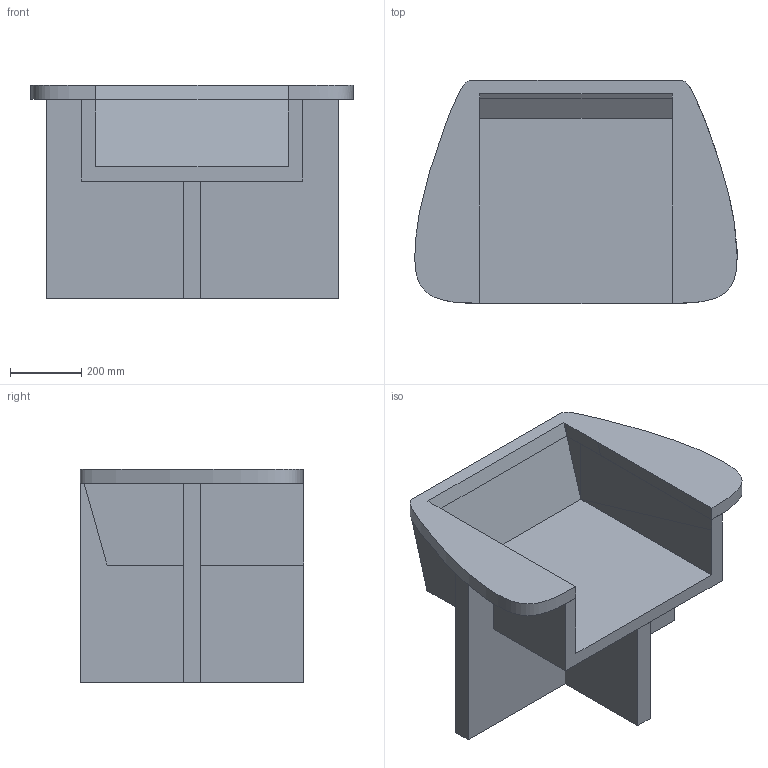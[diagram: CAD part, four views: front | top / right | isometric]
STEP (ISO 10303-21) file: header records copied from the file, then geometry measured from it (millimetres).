
FILE_DESCRIPTION(/* description */ (''),/* implementation_level */ '2;1');
FILE_NAME(/* name */ 'Brutus Lounge',/* time_stamp */ '2021-11-01T10:22:42+01:00',/* author */ (''),/* organization */ (''),/* preprocessor_version */ 'ST-DEVELOPER v15',/* originating_system */ '',/* authorisation */ '');
FILE_SCHEMA (('AUTOMOTIVE_DESIGN'));
Length unit declared in the file: millimetre
Products named in the file (1): Document
Bounding box: 905.33 x 626.4 x 600.65 mm (x, y, z)
Volume: 61509917.2 mm3; surface area: 3359209.5 mm2
Topology: 4 solids, 4 shells, 43 faces, 102 edges, 70 vertices
Faces by surface type: plane 37, bspline 6
Entity records: 1288 total; most frequent: CARTESIAN_POINT 539, ORIENTED_EDGE 198, B_SPLINE_CURVE_WITH_KNOTS 100, EDGE_CURVE 99, VERTEX_POINT 64, ADVANCED_FACE 43, FACE_OUTER_BOUND 43, EDGE_LOOP 43
